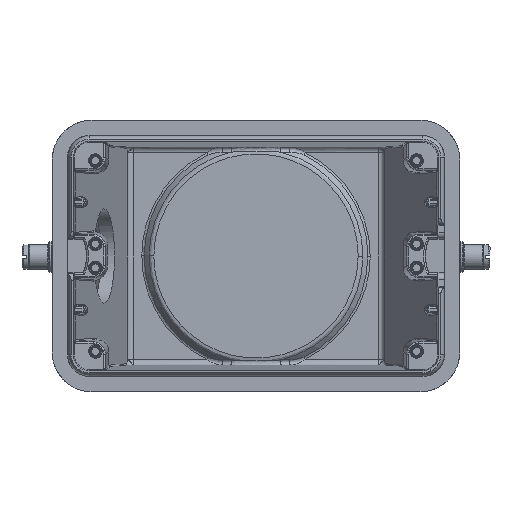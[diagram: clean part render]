
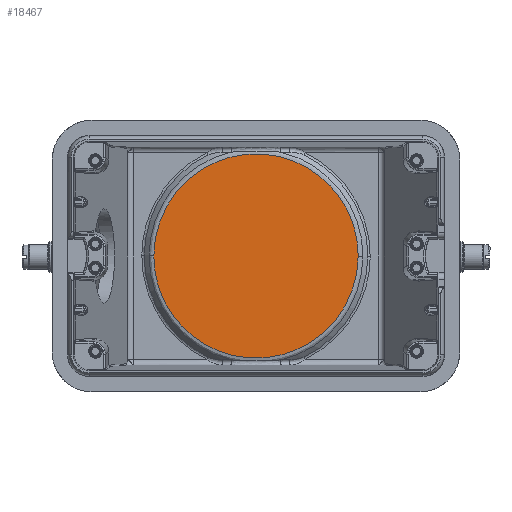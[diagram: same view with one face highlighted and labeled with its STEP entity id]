
A CAD part, front view. The second image highlights one B-rep face of the part: STEP entity #18467.
In plain terms, the highlighted planar face has unit normal (0, -1, 0).
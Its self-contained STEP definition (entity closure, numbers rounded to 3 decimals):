
#1732 = CARTESIAN_POINT ( 'NONE',  ( -32.513, 131.6, 65.579 ) ) ;
#1816 = VERTEX_POINT ( 'NONE', #19602 ) ;
#5979 = ORIENTED_EDGE ( 'NONE', *, *, #29528, .F. ) ;
#7402 = CARTESIAN_POINT ( 'NONE',  ( 32.513, 131.6, -65.579 ) ) ;
#7688 = CARTESIAN_POINT ( 'NONE',  ( 0., 131.6, 0. ) ) ;
#8900 = EDGE_LOOP ( 'NONE', ( #12333, #5979, #34748, #19865 ) ) ;
#9985 = CARTESIAN_POINT ( 'NONE',  ( -33.063, 131.6, -65.847 ) ) ;
#11372 = VERTEX_POINT ( 'NONE', #13867 ) ;
#12333 = ORIENTED_EDGE ( 'NONE', *, *, #30697, .F. ) ;
#12799 =( BOUNDED_CURVE ( )  B_SPLINE_CURVE ( 3, ( #25115, #7402, #9985, #21838 ),
 .UNSPECIFIED., .F., .T. ) 
 B_SPLINE_CURVE_WITH_KNOTS ( ( 4, 4 ),
 ( 0., 1. ),
 .UNSPECIFIED. ) 
 CURVE ( )  GEOMETRIC_REPRESENTATION_ITEM ( )  RATIONAL_B_SPLINE_CURVE ( ( 1., 0.336, 0.333, 0.992 ) ) 
 REPRESENTATION_ITEM ( '' )  );
#13285 = DIRECTION ( 'NONE',  ( 0., 0., 1. ) ) ;
#13867 = CARTESIAN_POINT ( 'NONE',  ( 33.062, 131.6, -0.278 ) ) ;
#14287 = CARTESIAN_POINT ( 'NONE',  ( -33.062, 131.6, 0.278 ) ) ;
#16059 = CARTESIAN_POINT ( 'NONE',  ( -33.063, 131.6, 0.093 ) ) ;
#16545 = CARTESIAN_POINT ( 'NONE',  ( -33.062, 131.6, 0.278 ) ) ;
#18467 = ADVANCED_FACE ( 'NONE', ( #25021 ), #19513, .F. ) ;
#19429 = AXIS2_PLACEMENT_3D ( 'NONE', #7688, #19782, #13285 ) ;
#19513 = PLANE ( 'NONE',  #19429 ) ;
#19602 = CARTESIAN_POINT ( 'NONE',  ( -33.063, 131.6, 0. ) ) ;
#19782 = DIRECTION ( 'NONE',  ( 0., 1., 0. ) ) ;
#19839 = CARTESIAN_POINT ( 'NONE',  ( 33.063, 131.6, -0.093 ) ) ;
#19865 = ORIENTED_EDGE ( 'NONE', *, *, #36149, .F. ) ;
#20875 =( BOUNDED_CURVE ( )  B_SPLINE_CURVE ( 3, ( #16545, #1732, #21233, #23325 ),
 .UNSPECIFIED., .F., .T. ) 
 B_SPLINE_CURVE_WITH_KNOTS ( ( 4, 4 ),
 ( 0., 1. ),
 .UNSPECIFIED. ) 
 CURVE ( )  GEOMETRIC_REPRESENTATION_ITEM ( )  RATIONAL_B_SPLINE_CURVE ( ( 1., 0.336, 0.333, 0.992 ) ) 
 REPRESENTATION_ITEM ( '' )  );
#21233 = CARTESIAN_POINT ( 'NONE',  ( 33.063, 131.6, 65.847 ) ) ;
#21838 = CARTESIAN_POINT ( 'NONE',  ( -33.063, 131.6, 0. ) ) ;
#21962 = VERTEX_POINT ( 'NONE', #26838 ) ;
#22862 = CARTESIAN_POINT ( 'NONE',  ( 33.063, 131.6, -0.185 ) ) ;
#23325 = CARTESIAN_POINT ( 'NONE',  ( 33.063, 131.6, 0. ) ) ;
#24987 = VERTEX_POINT ( 'NONE', #14287 ) ;
#25021 = FACE_OUTER_BOUND ( 'NONE', #8900, .T. ) ;
#25115 = CARTESIAN_POINT ( 'NONE',  ( 33.062, 131.6, -0.278 ) ) ;
#25865 = CARTESIAN_POINT ( 'NONE',  ( 33.062, 131.6, -0.278 ) ) ;
#26838 = CARTESIAN_POINT ( 'NONE',  ( 33.063, 131.6, 0. ) ) ;
#27844 = CARTESIAN_POINT ( 'NONE',  ( -33.063, 131.6, 0. ) ) ;
#29528 = EDGE_CURVE ( 'NONE', #21962, #11372, #33611, .T. ) ;
#30697 = EDGE_CURVE ( 'NONE', #11372, #1816, #12799, .T. ) ;
#30836 = CARTESIAN_POINT ( 'NONE',  ( -33.063, 131.6, 0.185 ) ) ;
#33611 =( BOUNDED_CURVE ( )  B_SPLINE_CURVE ( 3, ( #37774, #19839, #22862, #25865 ),
 .UNSPECIFIED., .F., .F. ) 
 B_SPLINE_CURVE_WITH_KNOTS ( ( 4, 4 ),
 ( 0., 1. ),
 .UNSPECIFIED. ) 
 CURVE ( )  GEOMETRIC_REPRESENTATION_ITEM ( )  RATIONAL_B_SPLINE_CURVE ( ( 0.992, 0.994, 0.997, 1. ) ) 
 REPRESENTATION_ITEM ( '' )  );
#34001 = EDGE_CURVE ( 'NONE', #24987, #21962, #20875, .T. ) ;
#34748 = ORIENTED_EDGE ( 'NONE', *, *, #34001, .F. ) ;
#36149 = EDGE_CURVE ( 'NONE', #1816, #24987, #36206, .T. ) ;
#36206 =( BOUNDED_CURVE ( )  B_SPLINE_CURVE ( 3, ( #27844, #16059, #30836, #36828 ),
 .UNSPECIFIED., .F., .F. ) 
 B_SPLINE_CURVE_WITH_KNOTS ( ( 4, 4 ),
 ( 0., 1. ),
 .UNSPECIFIED. ) 
 CURVE ( )  GEOMETRIC_REPRESENTATION_ITEM ( )  RATIONAL_B_SPLINE_CURVE ( ( 0.992, 0.994, 0.997, 1. ) ) 
 REPRESENTATION_ITEM ( '' )  );
#36828 = CARTESIAN_POINT ( 'NONE',  ( -33.062, 131.6, 0.278 ) ) ;
#37774 = CARTESIAN_POINT ( 'NONE',  ( 33.063, 131.6, 0. ) ) ;
